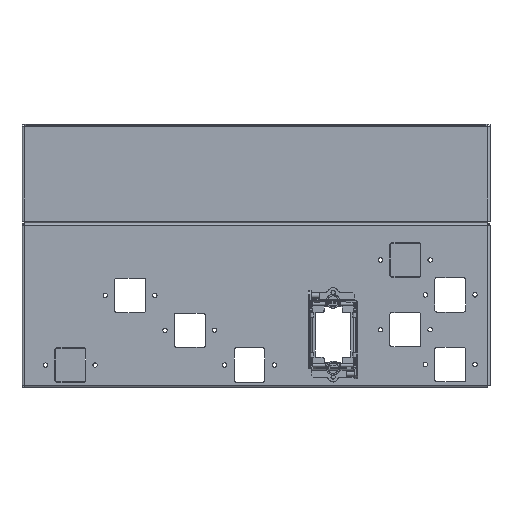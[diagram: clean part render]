
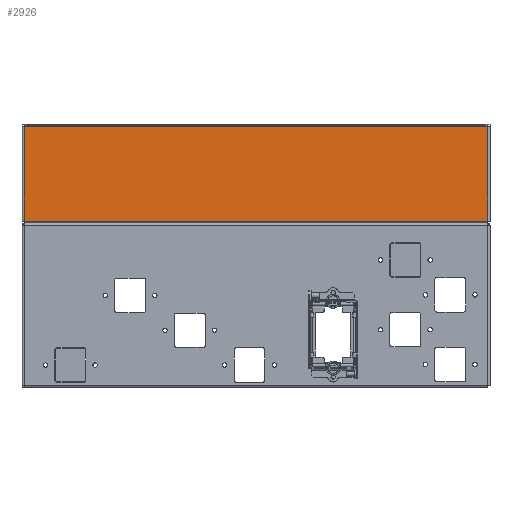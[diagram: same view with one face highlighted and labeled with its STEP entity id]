
A CAD part, top view. The second image highlights one B-rep face of the part: STEP entity #2926.
In plain terms, the highlighted planar face has unit normal (0, 0, 1).
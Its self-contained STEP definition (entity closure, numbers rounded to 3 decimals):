
#2261=CARTESIAN_POINT(' ',(-232.9,47.5,0.));
#2266=DIRECTION(' ',(0.,-1.,0.));
#2271=VECTOR(' ',#2266,1.);
#2276=LINE('',#2261,#2271);
#2281=CARTESIAN_POINT(' ',(-232.9,47.5,0.));
#2282=VERTEX_POINT(' ',#2281);
#2286=CARTESIAN_POINT(' ',(-232.9,-47.5,0.));
#2287=VERTEX_POINT(' ',#2286);
#2291=EDGE_CURVE(' ',#2282,#2287,#2276,.T.);
#2786=DIRECTION(' ',(0.,-0.,1.));
#2791=CARTESIAN_POINT(' ',(-232.9,-47.5,0.));
#2796=DIRECTION(' ',(1.,0.,-0.));
#2801=AXIS2_PLACEMENT_3D(' ',#2791,#2786,#2796);
#2806=PLANE('NONE',#2801);
#2811=ORIENTED_EDGE(' ',*,*,#2291,.T.);
#2816=CARTESIAN_POINT(' ',(-232.9,-47.5,0.));
#2821=DIRECTION(' ',(1.,0.,0.));
#2826=VECTOR(' ',#2821,1.);
#2831=LINE('',#2816,#2826);
#2836=CARTESIAN_POINT(' ',(232.9,-47.5,0.));
#2837=VERTEX_POINT(' ',#2836);
#2841=EDGE_CURVE(' ',#2287,#2837,#2831,.T.);
#2846=ORIENTED_EDGE(' ',*,*,#2841,.T.);
#2851=CARTESIAN_POINT(' ',(232.9,-47.5,0.));
#2856=DIRECTION(' ',(0.,1.,0.));
#2861=VECTOR(' ',#2856,1.);
#2866=LINE('',#2851,#2861);
#2871=CARTESIAN_POINT(' ',(232.9,47.5,0.));
#2872=VERTEX_POINT(' ',#2871);
#2876=EDGE_CURVE(' ',#2837,#2872,#2866,.T.);
#2881=ORIENTED_EDGE(' ',*,*,#2876,.T.);
#2886=CARTESIAN_POINT(' ',(232.9,47.5,0.));
#2891=DIRECTION(' ',(-1.,0.,0.));
#2896=VECTOR(' ',#2891,1.);
#2901=LINE('',#2886,#2896);
#2906=EDGE_CURVE(' ',#2872,#2282,#2901,.T.);
#2911=ORIENTED_EDGE(' ',*,*,#2906,.T.);
#2916=EDGE_LOOP(' ',(#2811,#2846,#2881,#2911));
#2921=FACE_OUTER_BOUND(' ',#2916,.T.);
#2926=ADVANCED_FACE('NONE',(#2921),#2806,.T.);
